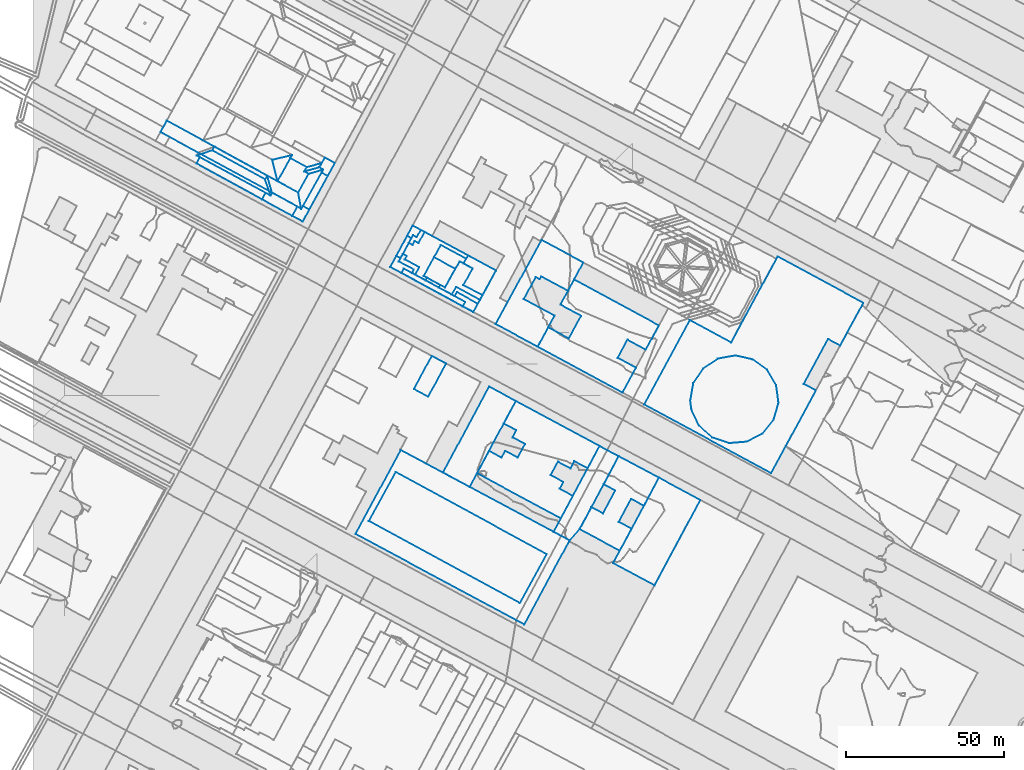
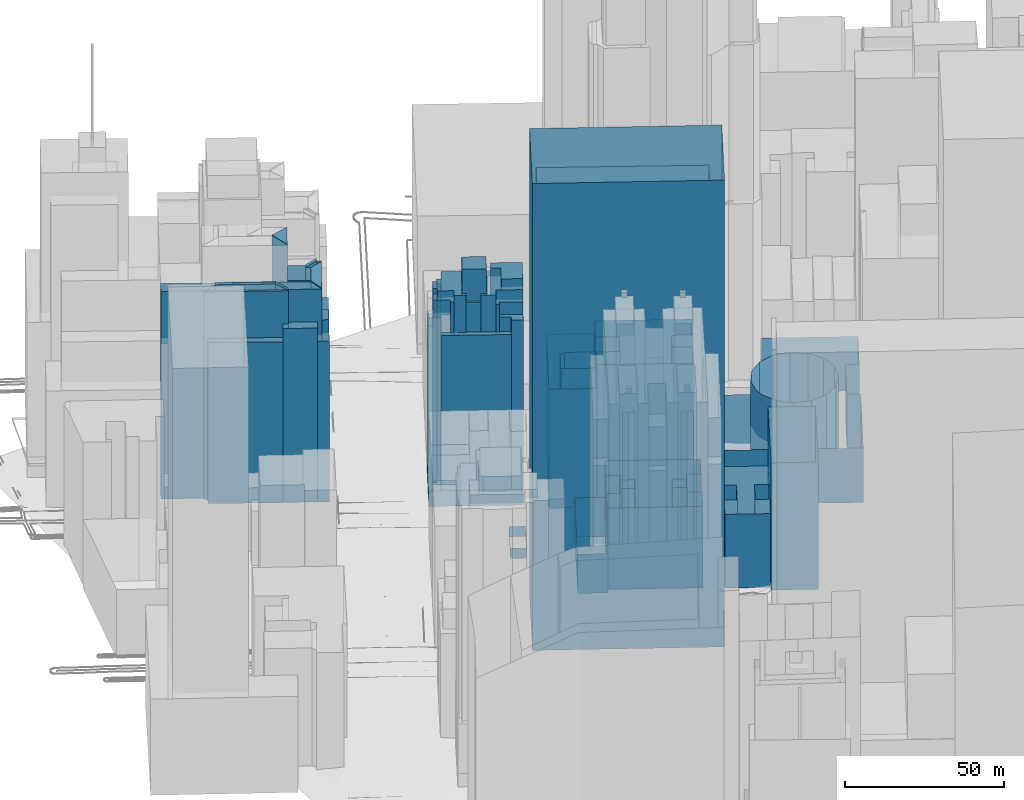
# Not in any storey, part 23 of 76: 38 walls.
"""IFC2X3 model written with IfcOpenShell, lengths in metres."""

from ifc_helpers import new_model, si_unit, frame, origin_with_axes, place, context, subcontext, project, faceted_brep, element, save


model = new_model("IFC2X3")

# Units and contexts
model_context = context("Model", 3, precision=1e-05, world=origin_with_axes())
body_context = subcontext(model_context, "Body", "Model", "MODEL_VIEW")
ifc_project = project(units=[si_unit("AREAUNIT", "SQUARE_METRE"), si_unit("LENGTHUNIT", "METRE")], contexts=[model_context])

# Walls
wall_1_placement = place(None, frame((183.8820757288, 196.3915098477, 20.8609767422), z_axis=(0.0, 0.0, 1.0), x_axis=(1.0, 0.0, 0.0)))
element("IfcWall", 1, at=wall_1_placement, Name="Mur 0", context=body_context, shape_type="Brep", body=[
    faceted_brep([(13.0985430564, -7.030868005, 49.0), (0.0, 0.0, 49.0), (13.0985430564, -7.030868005, 0.0), (0.0, 0.0, 0.0), (27.6239079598, 20.0388061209, 49.0), (27.6239079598, 20.0388061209, 0.0), (14.5169569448, 27.0695500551, 49.0), (14.5169569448, 27.0695500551, 0.0)], [[[0, 1, 2]], [[2, 1, 3]], [[4, 0, 5]], [[5, 0, 2]], [[1, 6, 3]], [[3, 6, 7]], [[6, 4, 7]], [[7, 4, 5]]]),
])
wall_2_placement = place(None, frame((102.2298570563, 205.6345629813, 20.5938253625), z_axis=(0.0, 0.0, 1.0), x_axis=(1.0, 0.0, 0.0)))
element("IfcWall", 2, at=wall_2_placement, Name="Mur 0", context=body_context, shape_type="Brep", body=[
    faceted_brep([(53.4972467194, -28.6328905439, 179.8000030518), (0.0, 0.0, 179.8000030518), (53.4972467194, -28.6328905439, 0.0), (0.0, 0.0, 0.0), (67.8508291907, -2.0204918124, 179.8000030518), (67.8508291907, -2.0204918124, 0.0), (14.353712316, 26.6122941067, 179.8000030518), (14.353712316, 26.6122941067, 0.0)], [[[0, 1, 2]], [[2, 1, 3]], [[4, 0, 5]], [[5, 0, 2]], [[1, 6, 3]], [[3, 6, 7]], [[6, 4, 7]], [[7, 4, 5]]]),
])
wall_3_placement = place(None, frame((106.4781571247, 209.8028425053, 21.3379729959), z_axis=(0.0, 0.0, 1.0), x_axis=(1.0, 0.0, 0.0)))
element("IfcWall", 3, at=wall_3_placement, Name="Mur 0", context=body_context, shape_type="Brep", body=[
    faceted_brep([(47.8622501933, -26.0671157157, 168.8000030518), (0.0, 0.0, 168.8000030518), (47.8622501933, -26.0671157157, 0.0), (0.0, 0.0, 0.0), (56.3684390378, -10.5694282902, 168.8000030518), (56.3684390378, -10.5694282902, 0.0), (8.5063843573, 15.4865312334, 168.8000030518), (8.5063843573, 15.4865312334, 0.0)], [[[0, 1, 2]], [[2, 1, 3]], [[4, 0, 5]], [[5, 0, 2]], [[1, 6, 3]], [[3, 6, 7]], [[6, 4, 7]], [[7, 4, 5]]]),
])
wall_4_placement = place(None, frame((164.9927892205, 206.3193932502, 19.6062191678), z_axis=(0.0, 0.0, 1.0), x_axis=(1.0, 0.0, 0.0)))
element("IfcWall", 4, at=wall_4_placement, Name="Mur 0", context=body_context, shape_type="Brep", body=[
    faceted_brep([(5.0878970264, -2.7053220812, 6.0), (0.0, 0.0, 6.0), (5.0878970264, -2.7053220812, 0.0), (0.0, 0.0, 0.0), (8.2630231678, 0.8287960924, 6.0), (8.2630231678, 0.8287960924, 0.0), (20.6479519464, 23.9544415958, 6.0), (20.6479519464, 23.9544415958, 0.0), (14.5577861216, 27.1921115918, 6.0), (14.5577861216, 27.1921115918, 0.0)], [[[0, 1, 2]], [[2, 1, 3]], [[4, 0, 5]], [[5, 0, 2]], [[6, 4, 7]], [[7, 4, 5]], [[1, 8, 3]], [[3, 8, 9]], [[8, 6, 9]], [[9, 6, 7]]]),
])
wall_5_placement = place(None, frame((173.2558123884, 207.1481893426, 18.8067512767), z_axis=(0.0, 0.0, 1.0), x_axis=(1.0, 0.0, 0.0)))
element("IfcWall", 5, at=wall_5_placement, Name="Mur 0", context=body_context, shape_type="Brep", body=[
    faceted_brep([(12.733126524, -6.8241916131, 28.3999996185), (0.0, 0.0, 28.3999996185), (12.733126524, -6.8241916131, 0.0), (0.0, 0.0, 0.0), (16.475942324, 0.1582329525, 28.3999996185), (16.475942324, 0.1582329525, 0.0), (12.3816260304, 2.3532869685, 28.3999996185), (12.3816260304, 2.3532869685, 0.0), (16.2731366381, 9.6149967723, 28.3999996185), (16.2731366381, 9.6149967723, 0.0), (20.3758905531, 7.4200430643, 28.3999996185), (20.3758905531, 7.4200430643, 0.0), (25.1432202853, 16.3128705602, 28.3999996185), (25.1432202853, 16.3128705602, 0.0), (12.3849287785, 23.1256455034, 28.3999996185), (12.3849287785, 23.1256455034, 0.0), (7.6512209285, 14.2443195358, 28.3999996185), (7.6512209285, 14.2443195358, 0.0), (11.2869121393, 12.2881807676, 28.3999996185), (11.2869121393, 12.2881807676, 0.0), (7.3952691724, 5.0375743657, 28.3999996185), (7.3952691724, 5.0375743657, 0.0), (3.742823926, 6.9824180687, 28.3999996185), (3.742823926, 6.9824180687, 0.0)], [[[0, 1, 2]], [[2, 1, 3]], [[4, 0, 5]], [[5, 0, 2]], [[6, 4, 7]], [[7, 4, 5]], [[8, 6, 9]], [[9, 6, 7]], [[10, 8, 11]], [[11, 8, 9]], [[12, 10, 13]], [[13, 10, 11]], [[14, 12, 15]], [[15, 12, 13]], [[16, 14, 17]], [[17, 14, 15]], [[18, 16, 19]], [[19, 16, 17]], [[20, 18, 21]], [[21, 18, 19]], [[1, 22, 3]], [[3, 22, 23]], [[22, 20, 23]], [[23, 20, 21]]]),
])
wall_6_placement = place(None, frame((159.9721915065, 264.969762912, 19.7613864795), z_axis=(0.0, 0.0, 1.0), x_axis=(1.0, 0.0, 0.0)))
element("IfcWall", 6, at=wall_6_placement, Name="Mur 0", context=body_context, shape_type="Brep", body=[
    faceted_brep([(26.8862979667, -14.5533802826, 54.7000007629), (0.0, 0.0, 54.7000007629), (26.8862979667, -14.5533802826, 0.0), (0.0, 0.0, 0.0), (31.1586807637, -6.6544117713, 54.7000007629), (31.1586807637, -6.6544117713, 0.0), (25.3312162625, -3.502510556, 54.7000007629), (25.3312162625, -3.502510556, 0.0), (28.4385534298, 2.2290739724, 54.7000007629), (28.4385534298, 2.2290739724, 0.0), (34.2660149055, -0.9228247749, 54.7000007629), (34.2660149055, -0.9228247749, 0.0), (38.4143590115, 6.7526611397, 54.7000007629), (38.4143590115, 6.7526611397, 0.0), (11.5365531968, 21.3060973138, 54.7000007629), (11.5365531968, 21.3060973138, 0.0), (7.2227399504, 13.3400447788, 54.7000007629), (7.2227399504, 13.3400447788, 0.0), (13.7552421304, 9.807746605, 54.7000007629), (13.7552421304, 9.807746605, 0.0), (9.8628457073, 2.6237495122, 54.7000007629), (9.8628457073, 2.6237495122, 0.0), (3.3387795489, 6.1561492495, 54.7000007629), (3.3387795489, 6.1561492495, 0.0)], [[[0, 1, 2]], [[2, 1, 3]], [[4, 0, 5]], [[5, 0, 2]], [[6, 4, 7]], [[7, 4, 5]], [[8, 6, 9]], [[9, 6, 7]], [[10, 8, 11]], [[11, 8, 9]], [[12, 10, 13]], [[13, 10, 11]], [[14, 12, 15]], [[15, 12, 13]], [[16, 14, 17]], [[17, 14, 15]], [[18, 16, 19]], [[19, 16, 17]], [[20, 18, 21]], [[21, 18, 19]], [[1, 22, 3]], [[3, 22, 23]], [[22, 20, 23]], [[23, 20, 21]]]),
])
wall_7_placement = place(None, frame((140.736043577, 224.855812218, 18.8878227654), z_axis=(0.0, 0.0, 1.0), x_axis=(1.0, 0.0, 0.0)))
element("IfcWall", 7, at=wall_7_placement, Name="Mur 0", context=body_context, shape_type="Brep", body=[
    faceted_brep([(26.5536145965, -14.2464559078, 31.3999996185), (0.0, 0.0, 31.3999996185), (26.5536145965, -14.2464559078, 0.0), (0.0, 0.0, 0.0), (30.3624164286, -7.1300469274, 31.3999996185), (30.3624164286, -7.1300469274, 0.0), (26.1831921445, -4.8915607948, 31.3999996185), (26.1831921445, -4.8915607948, 0.0), (27.3481177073, -2.7130804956, 31.3999996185), (27.3481177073, -2.7130804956, 0.0), (23.3727549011, -0.5832457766, 31.3999996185), (23.3727549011, -0.5832457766, 0.0), (25.6615651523, 3.6733168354, 31.3999996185), (25.6615651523, 3.6733168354, 0.0), (29.6369264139, 1.5434833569, 31.3999996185), (29.6369264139, 1.5434833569, 0.0), (30.8679530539, 3.8448574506, 31.3999996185), (30.8679530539, 3.8448574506, 0.0), (35.0471740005, 1.6063739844, 31.3999996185), (35.0471740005, 1.6063739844, 0.0), (38.8145317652, 8.6556926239, 31.3999996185), (38.8145317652, 8.6556926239, 0.0), (12.3027872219, 22.9358968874, 31.3999996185), (12.3027872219, 22.9358968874, 0.0), (8.4690509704, 15.7859003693, 31.3999996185), (8.4690509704, 15.7859003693, 0.0), (12.4614103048, 13.6451532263, 31.3999996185), (12.4614103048, 13.6451532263, 0.0), (11.254926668, 11.4106810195, 31.3999996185), (11.254926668, 11.4106810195, 0.0), (15.2048295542, 9.2916463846, 31.3999996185), (15.2048295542, 9.2916463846, 0.0), (12.9161442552, 5.023986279, 31.3999996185), (12.9161442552, 5.023986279, 0.0), (8.9662398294, 7.1430221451, 31.3999996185), (8.9662398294, 7.1430221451, 0.0), (7.801181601, 4.9756455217, 31.3999996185), (7.801181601, 4.9756455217, 0.0), (3.8172594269, 7.11649328, 31.3999996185), (3.8172594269, 7.11649328, 0.0)], [[[0, 1, 2]], [[2, 1, 3]], [[4, 0, 5]], [[5, 0, 2]], [[6, 4, 7]], [[7, 4, 5]], [[8, 6, 9]], [[9, 6, 7]], [[10, 8, 11]], [[11, 8, 9]], [[12, 10, 13]], [[13, 10, 11]], [[14, 12, 15]], [[15, 12, 13]], [[16, 14, 17]], [[17, 14, 15]], [[18, 16, 19]], [[19, 16, 17]], [[20, 18, 21]], [[21, 18, 19]], [[22, 20, 23]], [[23, 20, 21]], [[24, 22, 25]], [[25, 22, 23]], [[26, 24, 27]], [[27, 24, 25]], [[28, 26, 29]], [[29, 26, 27]], [[30, 28, 31]], [[31, 28, 29]], [[32, 30, 33]], [[33, 30, 31]], [[34, 32, 35]], [[35, 32, 33]], [[36, 34, 37]], [[37, 34, 35]], [[1, 38, 3]], [[3, 38, 39]], [[38, 36, 39]], [[39, 36, 37]]]),
])
wall_8_placement = place(None, frame((129.9536213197, 225.0858006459, 21.0283081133), z_axis=(0.0, 0.0, 1.0), x_axis=(1.0, 0.0, 0.0)))
element("IfcWall", 8, at=wall_8_placement, Name="Mur 0", context=body_context, shape_type="Brep", body=[
    faceted_brep([(8.4687912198, -4.5312400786, 15.1999998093), (0.0, 0.0, 15.1999998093), (8.4687912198, -4.5312400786, 0.0), (0.0, 0.0, 0.0), (23.0852094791, 22.7059084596, 15.1999998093), (23.0852094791, 22.7059084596, 0.0), (14.6163103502, 27.2482324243, 15.1999998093), (14.6163103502, 27.2482324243, 0.0)], [[[0, 1, 2]], [[2, 1, 3]], [[4, 0, 5]], [[5, 0, 2]], [[1, 6, 3]], [[3, 6, 7]], [[6, 4, 7]], [[7, 4, 5]]]),
])
wall_9_placement = place(None, frame((120.7569680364, 251.5799535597, 21.6785385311), z_axis=(0.0, 0.0, 1.0), x_axis=(1.0, 0.0, 0.0)))
element("IfcWall", 9, at=wall_9_placement, Name="Mur 0", context=body_context, shape_type="Brep", body=[
    faceted_brep([(4.5360060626, -2.4342069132, 4.0), (0.0, 0.0, 4.0), (4.5360060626, -2.4342069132, 0.0), (0.0, 0.0, 0.0), (10.1793614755, 8.0785806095, 4.0), (10.1793614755, 8.0785806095, 0.0), (5.6434887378, 10.5016832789, 4.0), (5.6434887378, 10.5016832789, 0.0)], [[[0, 1, 2]], [[2, 1, 3]], [[4, 0, 5]], [[5, 0, 2]], [[1, 6, 3]], [[3, 6, 7]], [[6, 4, 7]], [[7, 4, 5]]]),
])
wall_10_placement = place(None, frame((133.701994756, 280.9958944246, 22.2284312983), z_axis=(0.0, 0.0, 1.0), x_axis=(1.0, 0.0, 0.0)))
element("IfcWall", 10, at=wall_10_placement, Name="Mur 0", context=body_context, shape_type="Brep", body=[
    faceted_brep([(3.3046733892, -1.8045757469, 70.0), (0.0, 0.0, 70.0), (3.3046733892, -1.8045757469, 0.0), (0.0, 0.0, 0.0), (2.5274119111, -3.2013890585, 70.0), (2.5274119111, -3.2013890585, 0.0), (5.8745466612, -5.0276748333, 70.0), (5.8745466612, -5.0276748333, 0.0), (7.3210219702, -2.3796322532, 70.0), (7.3210219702, -2.3796322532, 0.0), (0.686095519, 1.2514244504, 70.0), (0.686095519, 1.2514244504, 0.0)], [[[0, 1, 2]], [[2, 1, 3]], [[4, 0, 5]], [[5, 0, 2]], [[6, 4, 7]], [[7, 4, 5]], [[8, 6, 9]], [[9, 6, 7]], [[1, 10, 3]], [[3, 10, 11]], [[10, 8, 11]], [[11, 8, 9]]]),
])
wall_11_placement = place(None, frame((132.7675039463, 281.5068423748, 22.0591971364), z_axis=(0.0, 0.0, 1.0), x_axis=(1.0, 0.0, 0.0)))
element("IfcWall", 11, at=wall_11_placement, Name="Mur 0", context=body_context, shape_type="Brep", body=[
    faceted_brep([(0.9344908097, -0.5109479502, 75.0), (0.0, 0.0, 75.0), (0.9344908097, -0.5109479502, 0.0), (0.0, 0.0, 0.0), (1.6205863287, 0.7404765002, 75.0), (1.6205863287, 0.7404765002, 0.0), (8.2555127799, -2.8905802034, 75.0), (8.2555127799, -2.8905802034, 0.0), (8.9001799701, -1.7062499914, 75.0), (8.9001799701, -1.7062499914, 0.0), (1.3392038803, 2.43585198, 75.0), (1.3392038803, 2.43585198, 0.0)], [[[0, 1, 2]], [[2, 1, 3]], [[4, 0, 5]], [[5, 0, 2]], [[6, 4, 7]], [[7, 4, 5]], [[8, 6, 9]], [[9, 6, 7]], [[1, 10, 3]], [[3, 10, 11]], [[10, 8, 11]], [[11, 8, 9]]]),
])
wall_12_placement = place(None, frame((136.4219742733, 284.4691979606, 20.8510870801), z_axis=(0.0, 0.0, 1.0), x_axis=(1.0, 0.0, 0.0)))
element("IfcWall", 12, at=wall_12_placement, Name="Mur 0", context=body_context, shape_type="Brep", body=[
    faceted_brep([(6.088815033, -3.1266972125, 83.0), (0.0, 0.0, 83.0), (6.088815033, -3.1266972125, 0.0), (0.0, 0.0, 0.0), (10.3290123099, 4.6386442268, 83.0), (10.3290123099, 4.6386442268, 0.0), (1.4688163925, 9.4428815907, 83.0), (1.4688163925, 9.4428815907, 0.0), (0.063512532, 6.8841359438, 83.0), (0.063512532, 6.8841359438, 0.0), (2.9178819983, 5.3296808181, 83.0), (2.9178819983, 5.3296808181, 0.0)], [[[0, 1, 2]], [[2, 1, 3]], [[4, 0, 5]], [[5, 0, 2]], [[6, 4, 7]], [[7, 4, 5]], [[8, 6, 9]], [[9, 6, 7]], [[1, 10, 3]], [[3, 10, 11]], [[10, 8, 11]], [[11, 8, 9]]]),
])
wall_13_placement = place(None, frame((128.6389686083, 283.7459380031, 21.7688219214), z_axis=(0.0, 0.0, 1.0), x_axis=(1.0, 0.0, 0.0)))
element("IfcWall", 13, at=wall_13_placement, Name="Mur 0", context=body_context, shape_type="Brep", body=[
    faceted_brep([(4.128535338, -2.2390956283, 79.0), (0.0, 0.0, 79.0), (4.128535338, -2.2390956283, 0.0), (0.0, 0.0, 0.0), (5.4677392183, 0.1967563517, 79.0), (5.4677392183, 0.1967563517, 0.0), (13.0287153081, -3.9453456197, 79.0), (13.0287153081, -3.9453456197, 0.0), (13.8718206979, -2.403437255, 79.0), (13.8718206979, -2.403437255, 0.0), (7.7830056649, 0.7232599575, 79.0), (7.7830056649, 0.7232599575, 0.0), (10.7008876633, 6.0529407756, 79.0), (10.7008876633, 6.0529407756, 0.0), (6.5976755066, 8.2923269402, 79.0), (6.5976755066, 8.2923269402, 0.0), (1.9668380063, 0.0006475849, 79.0), (1.9668380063, 0.0006475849, 0.0), (0.4547989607, 0.8157486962, 79.0), (0.4547989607, 0.8157486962, 0.0)], [[[0, 1, 2]], [[2, 1, 3]], [[4, 0, 5]], [[5, 0, 2]], [[6, 4, 7]], [[7, 4, 5]], [[8, 6, 9]], [[9, 6, 7]], [[10, 8, 11]], [[11, 8, 9]], [[12, 10, 13]], [[13, 10, 11]], [[14, 12, 15]], [[15, 12, 13]], [[16, 14, 17]], [[17, 14, 15]], [[1, 18, 3]], [[3, 18, 19]], [[18, 16, 19]], [[19, 16, 17]]]),
])
wall_14_placement = place(None, frame((113.2505831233, 290.2618220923, 20.8510870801), z_axis=(0.0, 0.0, 1.0), x_axis=(1.0, 0.0, 0.0)))
element("IfcWall", 14, at=wall_14_placement, Name="Mur 0", context=body_context, shape_type="Brep", body=[
    faceted_brep([(26.3259582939, -14.293602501, 6.0), (0.0, 0.0, 6.0), (26.3259582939, -14.293602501, 0.0), (0.0, 0.0, 0.0), (33.5004034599, -1.1539799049, 6.0), (33.5004034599, -1.1539799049, 0.0), (7.1070834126, 13.1277116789, 6.0), (7.1070834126, 13.1277116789, 0.0)], [[[0, 1, 2]], [[2, 1, 3]], [[4, 0, 5]], [[5, 0, 2]], [[1, 6, 3]], [[3, 6, 7]], [[6, 4, 7]], [[7, 4, 5]]]),
])
wall_15_placement = place(None, frame((123.8777892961, 287.3987743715, 22.3844927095), z_axis=(0.0, 0.0, 1.0), x_axis=(1.0, 0.0, 0.0)))
element("IfcWall", 15, at=wall_15_placement, Name="Mur 0", context=body_context, shape_type="Brep", body=[
    faceted_brep([(6.7280173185, -3.6521887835, 87.9000015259), (0.0, 0.0, 87.9000015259), (6.7280173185, -3.6521887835, 0.0), (0.0, 0.0, 0.0), (9.9766777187, 2.2697525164, 87.9000015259), (9.9766777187, 2.2697525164, 0.0), (3.2485350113, 5.9330390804, 87.9000015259), (3.2485350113, 5.9330390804, 0.0)], [[[0, 1, 2]], [[2, 1, 3]], [[4, 0, 5]], [[5, 0, 2]], [[1, 6, 3]], [[3, 6, 7]], [[6, 4, 7]], [[7, 4, 5]]]),
])
wall_16_placement = place(None, frame((124.4423978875, 286.0286544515, 23.0098590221), z_axis=(0.0, 0.0, 1.0), x_axis=(1.0, 0.0, 0.0)))
element("IfcWall", 16, at=wall_16_placement, Name="Mur 0", context=body_context, shape_type="Brep", body=[
    faceted_brep([(4.1965707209, -2.2827164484, 75.0), (0.0, 0.0, 75.0), (4.1965707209, -2.2827164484, 0.0), (0.0, 0.0, 0.0), (4.6513696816, -1.4669677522, 75.0), (4.6513696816, -1.4669677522, 0.0), (0.4463590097, 0.8156503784, 75.0), (0.4463590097, 0.8156503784, 0.0)], [[[0, 1, 2]], [[2, 1, 3]], [[4, 0, 5]], [[5, 0, 2]], [[1, 6, 3]], [[3, 6, 7]], [[6, 4, 7]], [[7, 4, 5]]]),
])
wall_17_placement = place(None, frame((116.8013041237, 288.3490732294, 22.6187660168), z_axis=(0.0, 0.0, 1.0), x_axis=(1.0, 0.0, 0.0)))
element("IfcWall", 17, at=wall_17_placement, Name="Mur 0", context=body_context, shape_type="Brep", body=[
    faceted_brep([(19.4281025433, -10.5545678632, 64.0), (0.0, 0.0, 64.0), (19.4281025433, -10.5545678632, 0.0), (0.0, 0.0, 0.0), (20.2053640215, -9.1577545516, 64.0), (20.2053640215, -9.1577545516, 0.0), (0.7771349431, 1.4079120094, 64.0), (0.7771349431, 1.4079120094, 0.0)], [[[0, 1, 2]], [[2, 1, 3]], [[4, 0, 5]], [[5, 0, 2]], [[1, 6, 3]], [[3, 6, 7]], [[6, 4, 7]], [[7, 4, 5]]]),
])
wall_18_placement = place(None, frame((115.9822453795, 292.0033020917, 23.3452877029), z_axis=(0.0, 0.0, 1.0), x_axis=(1.0, 0.0, 0.0)))
element("IfcWall", 18, at=wall_18_placement, Name="Mur 0", context=body_context, shape_type="Brep", body=[
    faceted_brep([(4.7571032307, -2.5759699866, 75.0), (0.0, 0.0, 75.0), (4.7571032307, -2.5759699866, 0.0), (0.0, 0.0, 0.0), (4.1786660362, -3.648506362, 75.0), (4.1786660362, -3.648506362, 0.0), (5.1896332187, -4.2029764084, 75.0), (5.1896332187, -4.2029764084, 0.0), (6.4789719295, -1.8343194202, 75.0), (6.4789719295, -1.8343194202, 0.0), (1.8832649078, 0.6547063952, 75.0), (1.8832649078, 0.6547063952, 0.0), (2.4784536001, 1.7385394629, 75.0), (2.4784536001, 1.7385394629, 0.0), (1.2720721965, 2.4017622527, 75.0), (1.2720721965, 2.4017622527, 0.0)], [[[0, 1, 2]], [[2, 1, 3]], [[4, 0, 5]], [[5, 0, 2]], [[6, 4, 7]], [[7, 4, 5]], [[8, 6, 9]], [[9, 6, 7]], [[10, 8, 11]], [[11, 8, 9]], [[12, 10, 13]], [[13, 10, 11]], [[1, 14, 3]], [[3, 14, 15]], [[14, 12, 15]], [[15, 12, 13]]]),
])
wall_19_placement = place(None, frame((115.1686161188, 293.7369041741, 23.6149483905), z_axis=(0.0, 0.0, 1.0), x_axis=(1.0, 0.0, 0.0)))
element("IfcWall", 19, at=wall_19_placement, Name="Mur 0", context=body_context, shape_type="Brep", body=[
    faceted_brep([(1.3505102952, -0.7170600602, 64.0), (0.0, 0.0, 64.0), (1.3505102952, -0.7170600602, 0.0), (0.0, 0.0, 0.0), (4.7632106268, 5.6175640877, 64.0), (4.7632106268, 5.6175640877, 0.0), (3.4125721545, 6.3457242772, 64.0), (3.4125721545, 6.3457242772, 0.0)], [[[0, 1, 2]], [[2, 1, 3]], [[4, 0, 5]], [[5, 0, 2]], [[1, 6, 3]], [[3, 6, 7]], [[6, 4, 7]], [[7, 4, 5]]]),
])
wall_20_placement = place(None, frame((117.2543175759, 294.4050643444, 21.8182038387), z_axis=(0.0, 0.0, 1.0), x_axis=(1.0, 0.0, 0.0)))
element("IfcWall", 20, at=wall_20_placement, Name="Mur 0", context=body_context, shape_type="Brep", body=[
    faceted_brep([(1.2063814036, -0.6632227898, 79.0), (0.0, 0.0, 79.0), (1.2063814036, -0.6632227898, 0.0), (0.0, 0.0, 0.0), (0.6111927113, -1.7470558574, 79.0), (0.6111927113, -1.7470558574, 0.0), (5.206899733, -4.2360816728, 79.0), (5.206899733, -4.2360816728, 0.0), (3.9175610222, -6.6047386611, 79.0), (3.9175610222, -6.6047386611, 0.0), (7.1880803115, -8.3764098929, 79.0), (7.1880803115, -8.3764098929, 0.0), (7.6344393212, -7.5607595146, 79.0), (7.6344393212, -7.5607595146, 0.0), (6.6234717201, -7.0062899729, 79.0), (6.6234717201, -7.0062899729, 0.0), (12.0128889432, 2.8374121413, 79.0), (12.0128889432, 2.8374121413, 0.0), (20.0660920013, -1.532122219, 79.0), (20.0660920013, -1.532122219, 0.0), (20.6364730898, -0.4929847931, 79.0), (20.6364730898, -0.4929847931, 0.0), (6.8834997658, 6.9411625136, 79.0), (6.8834997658, 6.9411625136, 0.0), (4.9492373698, 3.4103780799, 79.0), (4.9492373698, 3.4103780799, 0.0), (3.7259757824, 4.073404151, 79.0), (3.7259757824, 4.073404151, 0.0), (3.0481909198, 2.8331797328, 79.0), (3.0481909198, 2.8331797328, 0.0), (1.8928382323, 3.4636882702, 79.0), (1.8928382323, 3.4636882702, 0.0)], [[[0, 1, 2]], [[2, 1, 3]], [[4, 0, 5]], [[5, 0, 2]], [[6, 4, 7]], [[7, 4, 5]], [[8, 6, 9]], [[9, 6, 7]], [[10, 8, 11]], [[11, 8, 9]], [[12, 10, 13]], [[13, 10, 11]], [[14, 12, 15]], [[15, 12, 13]], [[16, 14, 17]], [[17, 14, 15]], [[18, 16, 19]], [[19, 16, 17]], [[20, 18, 21]], [[21, 18, 19]], [[22, 20, 23]], [[23, 20, 21]], [[24, 22, 25]], [[25, 22, 23]], [[26, 24, 27]], [[27, 24, 25]], [[28, 26, 29]], [[29, 26, 27]], [[1, 30, 3]], [[3, 30, 31]], [[30, 28, 31]], [[31, 28, 29]]]),
])
wall_21_placement = place(None, frame((146.6523051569, 272.1757564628, 19.3891240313), z_axis=(0.0, 0.0, 1.0), x_axis=(1.0, 0.0, 0.0)))
element("IfcWall", 21, at=wall_21_placement, Name="Mur 0", context=body_context, shape_type="Brep", body=[
    faceted_brep([(13.3198863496, -7.2059935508, 45.9000015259), (0.0, 0.0, 45.9000015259), (13.3198863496, -7.2059935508, 0.0), (0.0, 0.0, 0.0), (18.6586321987, 2.6371463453, 45.9000015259), (18.6586321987, 2.6371463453, 0.0), (8.931952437, 7.9086886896, 45.9000015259), (8.931952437, 7.9086886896, 0.0), (12.7252657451, 14.9027882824, 45.9000015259), (12.7252657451, 14.9027882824, 0.0), (13.982422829, 14.2290601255, 45.9000015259), (13.982422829, 14.2290601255, 0.0), (14.4368310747, 15.0781131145, 45.9000015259), (14.4368310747, 15.0781131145, 0.0), (22.9062179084, 10.4914052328, 45.9000015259), (22.9062179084, 10.4914052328, 0.0), (27.7984552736, 19.5299999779, 45.9000015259), (27.7984552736, 19.5299999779, 0.0), (14.5389731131, 26.6256464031, 45.9000015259), (14.5389731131, 26.6256464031, 0.0)], [[[0, 1, 2]], [[2, 1, 3]], [[4, 0, 5]], [[5, 0, 2]], [[6, 4, 7]], [[7, 4, 5]], [[8, 6, 9]], [[9, 6, 7]], [[10, 8, 11]], [[11, 8, 9]], [[12, 10, 13]], [[13, 10, 11]], [[14, 12, 15]], [[15, 12, 13]], [[16, 14, 17]], [[17, 14, 15]], [[1, 18, 3]], [[3, 18, 19]], [[18, 16, 19]], [[19, 16, 17]]]),
])
wall_22_placement = place(None, frame((208.3375568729, 247.8905716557, 20.825107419), z_axis=(0.0, 0.0, 1.0), x_axis=(1.0, 0.0, 0.0)))
element("IfcWall", 22, at=wall_22_placement, Name="Mur 0", context=body_context, shape_type="Brep", body=[
    faceted_brep([(0.3701435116, -2.7934642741, 37.0), (0.0, 0.0, 37.0), (0.3701435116, -2.7934642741, 0.0), (0.0, 0.0, 0.0), (2.7424292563, -7.8951187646, 37.0), (2.7424292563, -7.8951187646, 0.0), (6.9390853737, -11.6321820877, 37.0), (6.9390853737, -11.6321820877, 0.0), (12.2781734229, -13.435265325, 37.0), (12.2781734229, -13.435265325, 0.0), (17.8949044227, -12.9813571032, 37.0), (17.8949044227, -12.9813571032, 0.0), (22.8786233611, -10.3587654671, 37.0), (22.8786233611, -10.3587654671, 0.0), (26.4239639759, -5.9987460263, 37.0), (26.4239639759, -5.9987460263, 0.0), (27.9565517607, -0.5963225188, 37.0), (27.9565517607, -0.5963225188, 0.0), (27.2249428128, 4.9685003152, 37.0), (27.2249428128, 4.9685003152, 0.0), (24.3493255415, 9.7978381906, 37.0), (24.3493255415, 9.7978381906, 0.0), (19.7863353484, 13.0976424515, 37.0), (19.7863353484, 13.0976424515, 0.0), (14.2932254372, 14.3549177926, 37.0), (14.2932254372, 14.3549177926, 0.0), (8.7506217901, 13.3356587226, 37.0), (8.7506217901, 13.3356587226, 0.0), (4.0595645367, 10.2279804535, 37.0), (4.0595645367, 10.2279804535, 0.0), (0.973996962, 5.5291486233, 37.0), (0.973996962, 5.5291486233, 0.0)], [[[0, 1, 2]], [[2, 1, 3]], [[4, 0, 5]], [[5, 0, 2]], [[6, 4, 7]], [[7, 4, 5]], [[8, 6, 9]], [[9, 6, 7]], [[10, 8, 11]], [[11, 8, 9]], [[12, 10, 13]], [[13, 10, 11]], [[14, 12, 15]], [[15, 12, 13]], [[16, 14, 17]], [[17, 14, 15]], [[18, 16, 19]], [[19, 16, 17]], [[20, 18, 21]], [[21, 18, 19]], [[22, 20, 23]], [[23, 20, 21]], [[24, 22, 25]], [[25, 22, 23]], [[26, 24, 27]], [[27, 24, 25]], [[28, 26, 29]], [[29, 26, 27]], [[1, 30, 3]], [[3, 30, 31]], [[30, 28, 31]], [[31, 28, 29]]]),
])
wall_23_placement = place(None, frame((193.7309608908, 246.6882133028, 19.7595905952), z_axis=(0.0, 0.0, 1.0), x_axis=(1.0, 0.0, 0.0)))
element("IfcWall", 23, at=wall_23_placement, Name="Mur 0", context=body_context, shape_type="Brep", body=[
    faceted_brep([(40.2234747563, -21.7700261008, 21.0), (0.0, 0.0, 21.0), (40.2234747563, -21.7700261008, 0.0), (0.0, 0.0, 0.0), (54.4125243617, 4.4409408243, 21.0), (54.4125243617, 4.4409408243, 0.0), (50.5303832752, 6.5385106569, 21.0), (50.5303832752, 6.5385106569, 0.0), (58.2323186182, 20.7612951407, 21.0), (58.2323186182, 20.7612951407, 0.0), (62.1144547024, 18.6637293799, 21.0), (62.1144547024, 18.6637293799, 0.0), (69.4444224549, 32.2049607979, 21.0), (69.4444224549, 32.2049607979, 0.0), (42.2947416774, 46.899331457, 21.0), (42.2947416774, 46.899331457, 0.0), (27.5521167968, 19.6605385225, 21.0), (27.5521167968, 19.6605385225, 0.0), (14.4699178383, 26.7470627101, 21.0), (14.4699178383, 26.7470627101, 0.0)], [[[0, 1, 2]], [[2, 1, 3]], [[4, 0, 5]], [[5, 0, 2]], [[6, 4, 7]], [[7, 4, 5]], [[8, 6, 9]], [[9, 6, 7]], [[10, 8, 11]], [[11, 8, 9]], [[12, 10, 13]], [[13, 10, 11]], [[14, 12, 15]], [[15, 12, 13]], [[16, 14, 17]], [[17, 14, 15]], [[1, 18, 3]], [[3, 18, 19]], [[18, 16, 19]], [[19, 16, 17]]]),
])
wall_24_placement = place(None, frame((75.8576447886, 324.2223197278, 23.8818952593), z_axis=(0.0, 0.0, 1.0), x_axis=(1.0, 0.0, 0.0)))
element("IfcWall", 24, at=wall_24_placement, Name="Mur 0", context=body_context, shape_type="Brep", body=[
    faceted_brep([(1.6742153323, -6.7862405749, 94.0), (0.0, 0.0, 94.0), (1.6742153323, -6.7862405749, 0.0), (0.0, 0.0, 0.0), (6.2713279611, 1.5050133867, 94.0), (6.2713279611, 1.5050133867, 0.0)], [[[0, 1, 2]], [[2, 1, 3]], [[1, 4, 3]], [[3, 4, 5]], [[4, 0, 5]], [[5, 0, 2]]]),
])
wall_25_placement = place(None, frame((51.8301050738, 323.0662829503, 23.5650277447), z_axis=(0.0, 0.0, 1.0), x_axis=(1.0, 0.0, 0.0)))
element("IfcWall", 25, at=wall_25_placement, Name="Mur 0", context=body_context, shape_type="Brep", body=[
    faceted_brep([(20.7629560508, -11.3941082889, 62.0), (0.0, 0.0, 62.0), (20.7629560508, -11.3941082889, 0.0), (0.0, 0.0, 0.0), (21.9038617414, -9.3269442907, 62.0), (21.9038617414, -9.3269442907, 0.0), (1.0828589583, 1.9776688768, 62.0), (1.0828589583, 1.9776688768, 0.0)], [[[0, 1, 2]], [[2, 1, 3]], [[4, 0, 5]], [[5, 0, 2]], [[1, 6, 3]], [[3, 6, 7]], [[6, 4, 7]], [[7, 4, 5]]]),
])
wall_26_placement = place(None, frame((73.5998116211, 318.0232504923, 23.6934942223), z_axis=(0.0, 0.0, 1.0), x_axis=(1.0, 0.0, 0.0)))
element("IfcWall", 26, at=wall_26_placement, Name="Mur 0", context=body_context, shape_type="Brep", body=[
    faceted_brep([(1.7651185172, -5.1642565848, 80.0), (0.0, 0.0, 80.0), (1.7651185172, -5.1642565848, 0.0), (0.0, 0.0, 0.0), (2.2527799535, -4.2704138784, 80.0), (2.2527799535, -4.2704138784, 0.0), (0.6783061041, 1.1958170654, 80.0), (0.6783061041, 1.1958170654, 0.0)], [[[0, 1, 2]], [[2, 1, 3]], [[4, 0, 5]], [[5, 0, 2]], [[1, 6, 3]], [[3, 6, 7]], [[6, 4, 7]], [[7, 4, 5]]]),
])
wall_27_placement = place(None, frame((72.5930611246, 311.6721746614, 23.6541015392), z_axis=(0.0, 0.0, 1.0), x_axis=(1.0, 0.0, 0.0)))
element("IfcWall", 27, at=wall_27_placement, Name="Mur 0", context=body_context, shape_type="Brep", body=[
    faceted_brep([(9.5908889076, -5.2177144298, 67.0), (0.0, 0.0, 67.0), (9.5908889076, -5.2177144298, 0.0), (0.0, 0.0, 0.0), (11.2191958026, -2.2345041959, 67.0), (11.2191958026, -2.2345041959, 0.0), (3.2595304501, 2.0806619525, 67.0), (3.2595304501, 2.0806619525, 0.0), (2.7718690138, 1.186819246, 67.0), (2.7718690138, 1.186819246, 0.0), (1.1409056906, 2.0671639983, 67.0), (1.1409056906, 2.0671639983, 0.0)], [[[0, 1, 2]], [[2, 1, 3]], [[4, 0, 5]], [[5, 0, 2]], [[6, 4, 7]], [[7, 4, 5]], [[8, 6, 9]], [[9, 6, 7]], [[1, 10, 3]], [[3, 10, 11]], [[10, 8, 11]], [[11, 8, 9]]]),
])
wall_28_placement = place(None, frame((82.1839500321, 306.4544602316, 23.6541015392), z_axis=(0.0, 0.0, 1.0), x_axis=(1.0, 0.0, 0.0)))
element("IfcWall", 28, at=wall_28_placement, Name="Mur 0", context=body_context, shape_type="Brep", body=[
    faceted_brep([(3.3638596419, -1.8150130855, 62.0), (0.0, 0.0, 62.0), (3.3638596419, -1.8150130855, 0.0), (0.0, 0.0, 0.0), (5.3873702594, 2.0276609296, 62.0), (5.3873702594, 2.0276609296, 0.0), (3.390767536, 3.1369042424, 62.0), (3.390767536, 3.1369042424, 0.0), (2.8614214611, 2.1981677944, 62.0), (2.8614214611, 2.1981677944, 0.0), (1.628306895, 2.983210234, 62.0), (1.628306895, 2.983210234, 0.0)], [[[0, 1, 2]], [[2, 1, 3]], [[4, 0, 5]], [[5, 0, 2]], [[6, 4, 7]], [[7, 4, 5]], [[8, 6, 9]], [[9, 6, 7]], [[1, 10, 3]], [[3, 10, 11]], [[10, 8, 11]], [[11, 8, 9]]]),
])
wall_29_placement = place(None, frame((84.0905066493, 313.8262916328, 23.7335275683), z_axis=(0.0, 0.0, 1.0), x_axis=(1.0, 0.0, 0.0)))
element("IfcWall", 29, at=wall_29_placement, Name="Mur 0", context=body_context, shape_type="Brep", body=[
    faceted_brep([(0.9548648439, -5.1736636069, 80.0), (0.0, 0.0, 80.0), (0.9548648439, -5.1736636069, 0.0), (0.0, 0.0, 0.0), (7.9345415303, 7.2975078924, 80.0), (7.9345415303, 7.2975078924, 0.0), (3.3073776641, 5.9559091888, 80.0), (3.3073776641, 5.9559091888, 0.0)], [[[0, 1, 2]], [[2, 1, 3]], [[4, 0, 5]], [[5, 0, 2]], [[1, 6, 3]], [[3, 6, 7]], [[6, 4, 7]], [[7, 4, 5]]]),
])
wall_30_placement = place(None, frame((85.5747175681, 309.591364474, 23.7388524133), z_axis=(0.0, 0.0, 1.0), x_axis=(1.0, 0.0, 0.0)))
element("IfcWall", 30, at=wall_30_placement, Name="Mur 0", context=body_context, shape_type="Brep", body=[
    faceted_brep([(1.9966027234, -1.1092433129, 67.0), (0.0, 0.0, 67.0), (1.9966027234, -1.1092433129, 0.0), (0.0, 0.0, 0.0), (7.8583766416, 9.4948709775, 67.0), (7.8583766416, 9.4948709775, 0.0), (5.9126749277, 10.5824993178, 67.0), (5.9126749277, 10.5824993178, 0.0)], [[[0, 1, 2]], [[2, 1, 3]], [[4, 0, 5]], [[5, 0, 2]], [[1, 6, 3]], [[3, 6, 7]], [[6, 4, 7]], [[7, 4, 5]]]),
])
wall_31_placement = place(None, frame((40.4372493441, 332.9926795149, 23.2973875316), z_axis=(0.0, 0.0, 1.0), x_axis=(1.0, 0.0, 0.0)))
element("IfcWall", 31, at=wall_31_placement, Name="Mur 0", context=body_context, shape_type="Brep", body=[
    faceted_brep([(43.3750075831, -23.5550090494, 80.0), (0.0, 0.0, 80.0), (43.3750075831, -23.5550090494, 0.0), (0.0, 0.0, 0.0), (44.6081221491, -24.340051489, 80.0), (44.6081221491, -24.340051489, 0.0), (43.6532573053, -19.1663878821, 80.0), (43.6532573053, -19.1663878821, 0.0), (2.0171467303, 3.6649515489, 80.0), (2.0171467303, 3.6649515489, 0.0)], [[[0, 1, 2]], [[2, 1, 3]], [[4, 0, 5]], [[5, 0, 2]], [[6, 4, 7]], [[7, 4, 5]], [[1, 8, 3]], [[3, 8, 9]], [[8, 6, 9]], [[9, 6, 7]]]),
])
wall_32_placement = place(None, frame((119.1471558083, 297.8687526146, 23.2334152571), z_axis=(0.0, 0.0, 1.0), x_axis=(1.0, 0.0, 0.0)))
element("IfcWall", 32, at=wall_32_placement, Name="Mur 0", context=body_context, shape_type="Brep", body=[
    faceted_brep([(1.1553526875, -0.6305085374, 73.0), (0.0, 0.0, 73.0), (1.1553526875, -0.6305085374, 0.0), (0.0, 0.0, 0.0), (1.83313755, 0.6097158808, 73.0), (1.83313755, 0.6097158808, 0.0), (3.0563991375, -0.0533101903, 73.0), (3.0563991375, -0.0533101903, 0.0), (4.9906615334, 3.4774742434, 73.0), (4.9906615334, 3.4774742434, 0.0), (3.7758405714, 4.1405980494, 73.0), (3.7758405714, 4.1405980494, 0.0), (2.4942996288, 1.8275427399, 73.0), (2.4942996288, 1.8275427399, 0.0), (1.3050572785, 2.4687596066, 73.0), (1.3050572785, 2.4687596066, 0.0)], [[[0, 1, 2]], [[2, 1, 3]], [[4, 0, 5]], [[5, 0, 2]], [[6, 4, 7]], [[7, 4, 5]], [[8, 6, 9]], [[9, 6, 7]], [[10, 8, 11]], [[11, 8, 9]], [[12, 10, 13]], [[13, 10, 11]], [[1, 14, 3]], [[3, 14, 15]], [[14, 12, 15]], [[15, 12, 13]]]),
])
wall_33_placement = place(None, frame((90.7756990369, 321.8531409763, 24.126993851), z_axis=(0.0, 0.0, 1.0), x_axis=(1.0, 0.0, 0.0)))
element("IfcWall", 33, at=wall_33_placement, Name="Mur 0", context=body_context, shape_type="Brep", body=[
    faceted_brep([(1.2493491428, -0.7293414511, 62.0), (0.0, 0.0, 62.0), (1.2493491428, -0.7293414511, 0.0), (0.0, 0.0, 0.0), (0.711693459, -1.6792771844, 62.0), (0.711693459, -1.6792771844, 0.0), (2.6573951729, -2.7669055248, 62.0), (2.6573951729, -2.7669055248, 0.0), (4.9315253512, 1.3007267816, 62.0), (4.9315253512, 1.3007267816, 0.0), (1.7368622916, 3.0843934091, 62.0), (1.7368622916, 3.0843934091, 0.0)], [[[0, 1, 2]], [[2, 1, 3]], [[4, 0, 5]], [[5, 0, 2]], [[6, 4, 7]], [[7, 4, 5]], [[8, 6, 9]], [[9, 6, 7]], [[1, 10, 3]], [[3, 10, 11]], [[10, 8, 11]], [[11, 8, 9]]]),
])
wall_34_placement = place(None, frame((86.0131052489, 320.5432770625, 24.0792113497), z_axis=(0.0, 0.0, 1.0), x_axis=(1.0, 0.0, 0.0)))
element("IfcWall", 34, at=wall_34_placement, Name="Mur 0", context=body_context, shape_type="Brep", body=[
    faceted_brep([(4.762593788, 1.3098639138, 80.0), (0.0, 0.0, 80.0), (4.762593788, 1.3098639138, 0.0), (0.0, 0.0, 0.0), (5.5154405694, 2.6286731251, 80.0), (5.5154405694, 2.6286731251, 0.0), (0.7607723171, 1.3633097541, 80.0), (0.7607723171, 1.3633097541, 0.0)], [[[0, 1, 2]], [[2, 1, 3]], [[4, 0, 5]], [[5, 0, 2]], [[1, 6, 3]], [[3, 6, 7]], [[6, 4, 7]], [[7, 4, 5]]]),
])
wall_35_placement = place(None, frame((86.0131052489, 320.5432770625, 24.0792113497), z_axis=(0.0, 0.0, 1.0), x_axis=(1.0, 0.0, 0.0)))
element("IfcWall", 35, at=wall_35_placement, Name="Mur 0", context=body_context, shape_type="Brep", body=[
    faceted_brep([(1.3847790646, -0.7610762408, 80.0), (0.0, 0.0, 80.0), (1.3847790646, -0.7610762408, 0.0), (0.0, 0.0, 0.0), (6.0119429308, 0.5805224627, 80.0), (6.0119429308, 0.5805224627, 0.0), (4.762593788, 1.3098639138, 80.0), (4.762593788, 1.3098639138, 0.0)], [[[0, 1, 2]], [[2, 1, 3]], [[4, 0, 5]], [[5, 0, 2]], [[1, 6, 3]], [[3, 6, 7]], [[6, 4, 7]], [[7, 4, 5]]]),
])
wall_36_placement = place(None, frame((77.5318601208, 317.4360791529, 23.8332747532), z_axis=(0.0, 0.0, 1.0), x_axis=(1.0, 0.0, 0.0)))
element("IfcWall", 36, at=wall_36_placement, Name="Mur 0", context=body_context, shape_type="Brep", body=[
    faceted_brep([(6.5586465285, -3.60978752, 80.0), (0.0, 0.0, 80.0), (6.5586465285, -3.60978752, 0.0), (0.0, 0.0, 0.0), (9.8660241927, 2.3461216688, 80.0), (9.8660241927, 2.3461216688, 0.0), (8.4812451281, 3.1071979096, 80.0), (8.4812451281, 3.1071979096, 0.0), (9.2420174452, 4.4705076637, 80.0), (9.2420174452, 4.4705076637, 0.0), (4.059713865, 7.3191174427, 80.0), (4.059713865, 7.3191174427, 0.0)], [[[0, 1, 2]], [[2, 1, 3]], [[4, 0, 5]], [[5, 0, 2]], [[6, 4, 7]], [[7, 4, 5]], [[8, 6, 9]], [[9, 6, 7]], [[1, 10, 3]], [[3, 10, 11]], [[10, 8, 11]], [[11, 8, 9]]]),
])
wall_37_placement = place(None, frame((56.8465504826, 327.2323505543, 23.571723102), z_axis=(0.0, 0.0, 1.0), x_axis=(1.0, 0.0, 0.0)))
element("IfcWall", 37, at=wall_37_placement, Name="Mur 0", context=body_context, shape_type="Brep", body=[
    faceted_brep([(16.7532611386, -9.209100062, 80.0), (0.0, 0.0, 80.0), (16.7532611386, -9.209100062, 0.0), (0.0, 0.0, 0.0), (17.4315672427, -8.0132829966, 80.0), (17.4315672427, -8.0132829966, 0.0), (0.6872635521, 1.151510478, 80.0), (0.6872635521, 1.151510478, 0.0)], [[[0, 1, 2]], [[2, 1, 3]], [[4, 0, 5]], [[5, 0, 2]], [[1, 6, 3]], [[3, 6, 7]], [[6, 4, 7]], [[7, 4, 5]]]),
])
wall_38_placement = place(None, frame((51.9190164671, 325.5875262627, 23.5550313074), z_axis=(0.0, 0.0, 1.0), x_axis=(1.0, 0.0, 0.0)))
element("IfcWall", 38, at=wall_38_placement, Name="Mur 0", context=body_context, shape_type="Brep", body=[
    faceted_brep([(21.8149503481, -11.8481876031, 80.0), (0.0, 0.0, 80.0), (21.8149503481, -11.8481876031, 0.0), (0.0, 0.0, 0.0), (23.4459136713, -12.7285323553, 80.0), (23.4459136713, -12.7285323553, 0.0), (21.6807951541, -7.5642757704, 80.0), (21.6807951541, -7.5642757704, 0.0), (4.9275340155, 1.6448242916, 80.0), (4.9275340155, 1.6448242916, 0.0)], [[[0, 1, 2]], [[2, 1, 3]], [[4, 0, 5]], [[5, 0, 2]], [[6, 4, 7]], [[7, 4, 5]], [[1, 8, 3]], [[3, 8, 9]], [[8, 6, 9]], [[9, 6, 7]]]),
])

save(model, "model.ifc")
